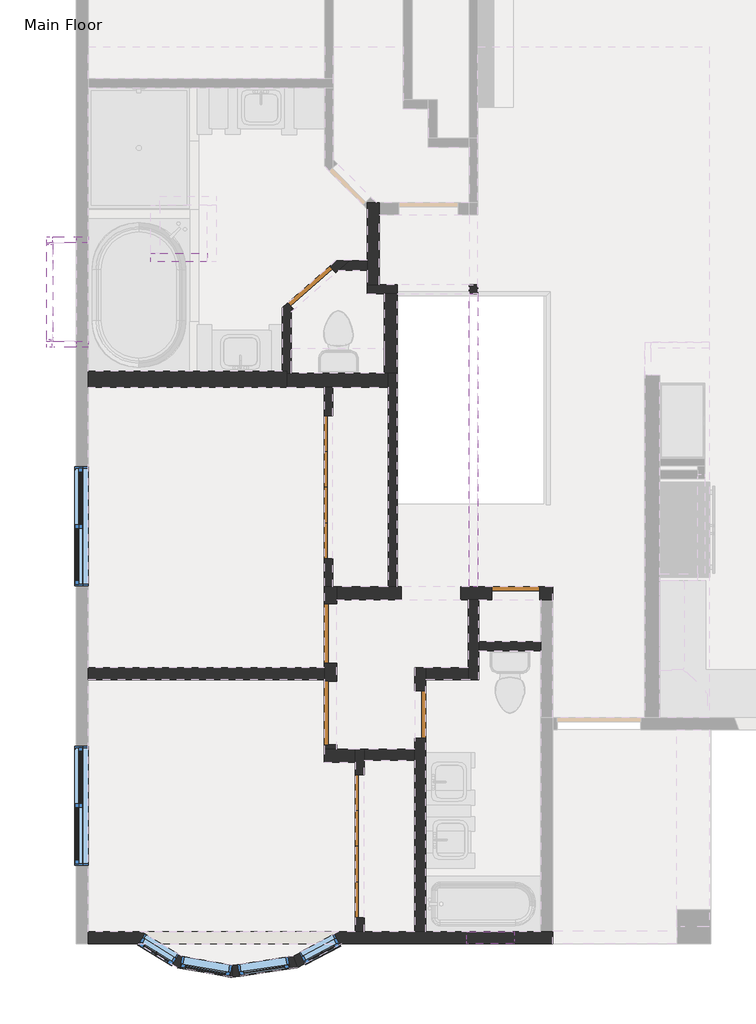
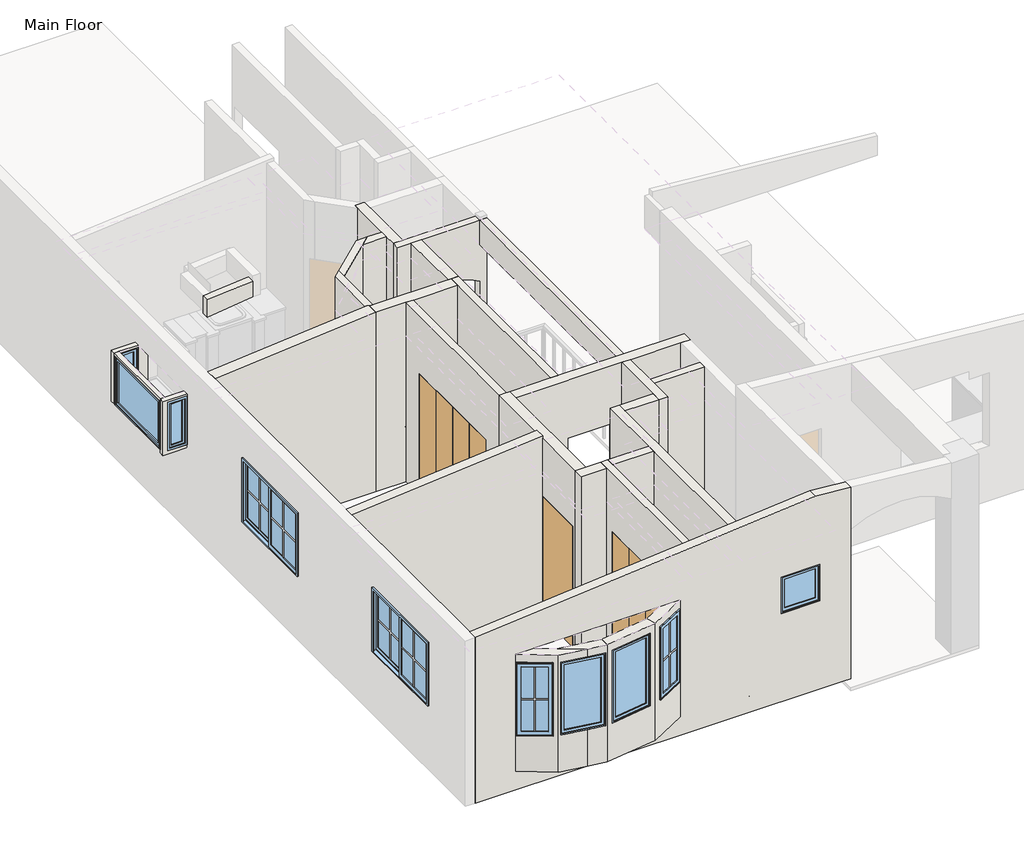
# One storey, part 1 of 5: 30 walls, 10 windows, 7 doors.
"""IFC4 building model written with IfcOpenShell, lengths in millimetres."""

from ifc_helpers import new_model, si_unit, frame, origin, origin_with_axes, place, context, project, spatial, polyline, circle_curve, outline, extrude, faceted_brep, transform, mapped, element, save
from ifc_brep_helpers import plane_surface, revolved_surface, advanced_brep
from components import door_87ea4745, door_5d97b8ff, door_faf8bfec, door_33e9856f, door_2963ea5e, door_f2f0d49f, default_1_57e22ce4, default_1_a1776558, default_1_78747222, default_1_bc1e4ced, default_1_f9d25cd8, default_1_6015c5f7

model = new_model("IFC4")

# Units and contexts
model_context = context("Model", 3, world=origin())
ifc_project = project(units=[si_unit("LENGTHUNIT", "METRE", prefix="MILLI")], contexts=[model_context])

# Site, building, storey
site = spatial("IfcSite", under=ifc_project)
building = spatial("IfcBuilding", under=site)
storey = spatial("IfcBuildingStorey", under=building, Name="Main Floor", Elevation=0.0)

# Doors
placement = place(None, origin())
door_shape = door_87ea4745(model_context)
element("IfcDoor", 1, ObjectType="Planitar - Single Door_Flush Panel : 2'-0\" x 6'-8\"", at=placement, inside=storey, context=model_context, shape_type="MappedRepresentation", body=[
    mapped(door_shape, transform((-1442.3255931, -6125.0626044, 0.0), x_axis=(0.0, 1.0, 0.0), y_axis=(-1.0, 0.0, 0.0), z_axis=(0.0, 0.0, 1.0))),
])
door_2_shape = door_5d97b8ff(model_context)
element("IfcDoor", 2, ObjectType="Planitar - Single Door_Flush Panel : 2'-0\" x 6'-8\"", at=placement, inside=storey, context=model_context, shape_type="MappedRepresentation", body=[
    mapped(door_2_shape, transform((-223.1255931, -4571.6938544, 0.0), x_axis=(1.0, 0.0, 0.0), y_axis=(0.0, 1.0, 0.0), z_axis=(0.0, 0.0, 1.0))),
])
door_3_shape = door_faf8bfec(model_context)
element("IfcDoor", 3, ObjectType="Planitar - Single Door_Flush Panel : 2'-4\" x 6'-8\"", at=placement, inside=storey, context=model_context, shape_type="MappedRepresentation", body=[
    mapped(door_3_shape, transform((-2831.7024506, -665.3234894, 0.0), x_axis=(0.7507134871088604, 0.6606279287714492, 0.0), y_axis=(-0.6606279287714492, 0.7507134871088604, 0.0), z_axis=(0.0, 0.0, 1.0))),
])
door_4_shape = door_33e9856f(model_context)
element("IfcDoor", 4, ObjectType="Planitar - Single Door_Flush Panel : 2'-6\" x 6'-8\"", at=placement, inside=storey, context=model_context, shape_type="MappedRepresentation", body=[
    mapped(door_4_shape, transform((-2591.6755931, -5086.0438544, 0.0), x_axis=(0.0, -1.0, 0.0), y_axis=(1.0, 0.0, 0.0), z_axis=(0.0, 0.0, 1.0))),
])
door_5_shape = door_2963ea5e(model_context)
element("IfcDoor", 5, ObjectType="Planitar - Single Door_Flush Panel : 2'-8\" x 6'-8\"", at=placement, inside=storey, context=model_context, shape_type="MappedRepresentation", body=[
    mapped(door_5_shape, transform((-2591.6755931, -6102.8376044, 0.0), x_axis=(0.0, 1.0, 0.0), y_axis=(-1.0, 0.0, 0.0), z_axis=(0.0, 0.0, 1.0))),
])
door_6_shape = door_f2f0d49f(model_context)
element("IfcDoor", 6, ObjectType="Planitar - Bifold Door : 6'-0\" x 6'-8\"", at=placement, inside=storey, context=model_context, shape_type="MappedRepresentation", body=[
    mapped(door_6_shape, transform((-2217.0255931, -7810.1938544, 0.0), x_axis=(0.0, 1.0, 0.0), y_axis=(-1.0, 0.0, 0.0), z_axis=(0.0, 0.0, 1.0))),
])
element("IfcDoor", 7, ObjectType="Planitar - Bifold Door : 6'-0\" x 6'-8\"", at=placement, inside=storey, context=model_context, shape_type="MappedRepresentation", body=[
    mapped(door_6_shape, transform((-2617.0755931, -3219.1438544, 0.0), x_axis=(0.0, 1.0, 0.0), y_axis=(-1.0, 0.0, 0.0), z_axis=(0.0, 0.0, 1.0))),
])

# Walls
element("IfcWall", 8, ObjectType="Planitar - Generic 3\"", at=placement, inside=storey, context=model_context, shape_type="Brep", body=[
    faceted_brep([(-6223.8755931, -12.3938544, 2273.3), (-5842.8755931, -12.3938544, 2273.3), (-5842.8755931, -12.3938544, 2260.6), (-5690.4755931, -12.3938544, 2260.6), (-5690.4755931, -12.3938544, 1422.4), (-5842.8755931, -12.3938544, 1422.4), (-5842.8755931, -12.3938544, 2235.2), (-6147.6755931, -12.3938544, 2235.2), (-6147.6755931, -12.3938544, 1422.4), (-6223.8755931, -12.3938544, 1422.4), (-5842.8755931, -88.5938544, 2273.3), (-6147.6755931, -88.5938544, 2273.3), (-6223.8755931, -88.5938544, 2273.3), (-6223.8755931, -88.5938544, 1422.4), (-6147.6755931, -88.5938544, 1422.4), (-6147.6755931, -88.5938544, 2235.2), (-5842.8755931, -88.5938544, 2235.2), (-5842.8755931, -88.5938544, 1422.4), (-5690.4755931, -88.5938544, 1422.4), (-5690.4755931, -88.5938544, 2260.6), (-5842.8755931, -88.5938544, 2260.6)], [[[0, 1, 2, 3, 4, 5, 6, 7, 8, 9]], [[10, 11, 12, 13, 14, 15, 16, 17, 18, 19, 20]], [[13, 9, 8, 14]], [[4, 18, 17, 5]], [[1, 0, 12, 11, 10]], [[0, 9, 13, 12]], [[20, 19, 3, 2]], [[4, 3, 19, 18]], [[2, 1, 10, 20]], [[7, 15, 14, 8]], [[16, 6, 5, 17]], [[6, 16, 15, 7]]]),
])
element("IfcWall", 9, ObjectType="Planitar - Generic 3\"", at=placement, inside=storey, context=model_context, shape_type="Brep", body=[
    faceted_brep([(-6223.8755931, -1352.2438544, 2273.3), (-6223.8755931, -88.5938544, 2273.3), (-6223.8755931, -88.5938544, 1422.4), (-6223.8755931, -110.8188544, 1422.4), (-6223.8755931, -110.8188544, 2235.2), (-6223.8755931, -1330.0188544, 2235.2), (-6223.8755931, -1330.0188544, 1422.4), (-6223.8755931, -1352.2438544, 1422.4), (-6147.6755931, -88.5938544, 2273.3), (-6147.6755931, -1352.2438544, 2273.3), (-6147.6755931, -1352.2438544, 2237.7945495), (-6147.6755931, -1352.2438544, 1424.9945495), (-6147.6755931, -1352.2438544, 1422.4), (-6147.6755931, -1330.0188544, 1422.4), (-6147.6755931, -1330.0188544, 2235.2), (-6147.6755931, -110.8188544, 2235.2), (-6147.6755931, -110.8188544, 1422.4), (-6147.6755931, -88.5938544, 1422.4), (-6147.6755931, -88.5938544, 1456.8035472), (-6147.6755931, -88.5938544, 2269.6035472)], [[[0, 1, 2, 3, 4, 5, 6, 7]], [[8, 9, 10, 11, 12, 13, 14, 15, 16, 17, 18, 19]], [[2, 17, 16, 3]], [[12, 7, 6, 13]], [[1, 0, 9, 8]], [[2, 1, 8, 19, 18, 17]], [[0, 7, 12, 11, 10, 9]], [[5, 14, 13, 6]], [[15, 4, 3, 16]], [[4, 15, 14, 5]]]),
])
element("IfcWall", 10, ObjectType="Planitar - Generic 3\"", at=placement, inside=storey, context=model_context, shape_type="Brep", body=[
    faceted_brep([(-6223.8755931, -1428.4438544, 1371.6), (-5690.4755931, -1428.4438544, 1371.6), (-5690.4755931, -1428.4438544, 1422.4), (-5690.4755931, -1428.4438544, 2260.6), (-5842.8755931, -1428.4438544, 2260.6), (-5842.8755931, -1428.4438544, 2273.3), (-6223.8755931, -1428.4438544, 2273.3), (-5843.0005931, -1428.4438544, 2235.2), (-5843.0005931, -1428.4438544, 1422.4), (-6147.8005931, -1428.4438544, 1422.4), (-6147.8005931, -1428.4438544, 2235.2), (-5690.4755931, -1352.2438544, 1371.6), (-6223.8755931, -1352.2438544, 1371.6), (-6223.8755931, -1352.2438544, 1422.4), (-6223.8755931, -1352.2438544, 2273.3), (-6147.6755931, -1352.2438544, 2273.3), (-5842.8755931, -1352.2438544, 2273.3), (-5842.8755931, -1352.2438544, 2260.6), (-5690.4755931, -1352.2438544, 2260.6), (-5843.0005931, -1352.2438544, 1422.4), (-5843.0005931, -1352.2438544, 2235.2), (-6147.8005931, -1352.2438544, 2235.2), (-6147.8005931, -1352.2438544, 1422.4)], [[[0, 1, 2, 3, 4, 5, 6], [7, 8, 9, 10]], [[11, 12, 13, 14, 15, 16, 17, 18], [19, 20, 21, 22]], [[1, 0, 12, 11]], [[6, 5, 16, 15, 14]], [[0, 6, 14, 13, 12]], [[4, 3, 18, 17]], [[3, 2, 1, 11, 18]], [[5, 4, 17, 16]], [[19, 8, 7, 20]], [[21, 10, 9, 22]], [[8, 19, 22, 9]], [[10, 21, 20, 7]]]),
])
element("IfcWall", 11, ObjectType="Planitar - Generic 6\"", at=placement, inside=storey, context=model_context, shape_type="Brep", body=[
    faceted_brep([(-5051.5572445, -9054.7938544, 304.8), (-4549.6415315, -9362.2171956, 304.8), (-4549.6415315, -9362.2171956, 2260.6), (-5051.5572445, -9054.7938544, 2260.6), (-5044.389161, -9059.184305, 914.4), (-5044.389161, -9059.184305, 2133.6), (-4611.1899056, -9324.5188205, 2133.6), (-4611.1899056, -9324.5188205, 914.4), (-4137.1473663, -9436.1548561, 304.8), (-4494.5096931, -9217.2704544, 304.8), (-4759.7776399, -9054.7938544, 304.8), (-4759.7776399, -9054.7938544, 914.4), (-4531.589551, -9194.5590439, 914.4), (-4531.589551, -9194.5590439, 2133.6), (-4759.7776399, -9054.7938544, 2133.6), (-4759.7776399, -9054.7938544, 2260.6), (-4494.5096931, -9217.2704544, 2260.6), (-4137.1473663, -9436.1548561, 2260.6), (-4137.1473663, -9436.1548561, 2133.6), (-4494.5096931, -9217.2704544, 2133.6), (-4494.5096931, -9217.2704544, 914.4), (-4137.1473663, -9436.1548561, 914.4), (-4522.8716734, -9367.0155682, 914.4), (-4522.8716734, -9367.0155682, 2133.6), (-5041.7000103, -9054.7938544, 2133.6), (-5041.7000103, -9054.7938544, 914.4), (-4495.9832156, -9217.0063323, 2133.6), (-4495.9832156, -9217.0063323, 914.4)], [[[0, 1, 2, 3], [4, 5, 6, 7]], [[8, 9, 10, 11, 12, 13, 14, 15, 16, 17, 18, 19, 20, 21]], [[1, 0, 10, 9, 8]], [[3, 2, 17, 16, 15]], [[2, 1, 8, 21, 22, 23, 18, 17]], [[24, 5, 4, 25]], [[25, 4, 7, 12, 11]], [[12, 7, 6, 13]], [[5, 24, 14, 13, 6]], [[26, 27, 20, 19]], [[23, 26, 19, 18]], [[27, 26, 23, 22]], [[27, 22, 21, 20]], [[0, 3, 15, 14, 24, 25, 11, 10]]]),
])
element("IfcWall", 12, ObjectType="Planitar - Generic 6\"", at=placement, inside=storey, context=model_context, shape_type="Brep", body=[
    faceted_brep([(-4137.1473663, -9436.1548561, 304.8), (-3850.0897275, -9487.6086026, 304.8), (-3850.0897275, -9487.6086026, 2260.6), (-4137.1473663, -9436.1548561, 2260.6), (-4137.1473663, -9436.1548561, 2133.6), (-3872.8316514, -9483.5322186, 2133.6), (-3872.8316514, -9483.5322186, 914.4), (-4137.1473663, -9436.1548561, 914.4), (-3847.8613931, -9333.1791544, 304.8), (-4494.5096931, -9217.2704544, 304.8), (-4494.5096931, -9217.2704544, 914.4), (-3847.8613931, -9333.1791544, 914.4), (-4494.5096931, -9217.2704544, 2260.6), (-3847.8613931, -9333.1791544, 2260.6), (-3847.8613931, -9333.1791544, 2133.6), (-4494.5096931, -9217.2704544, 2133.6), (-3848.0347252, -9345.1915227, 914.4), (-3848.0347252, -9345.1915227, 2133.6)], [[[0, 1, 2, 3, 4, 5, 6, 7]], [[8, 9, 10, 11]], [[12, 13, 14, 15]], [[1, 0, 9, 8]], [[3, 2, 13, 12]], [[3, 12, 15, 4]], [[9, 0, 7, 10]], [[2, 1, 8, 11, 16, 17, 14, 13]], [[16, 6, 5, 17]], [[17, 5, 4, 15, 14]], [[6, 16, 11, 10, 7]]]),
])
element("IfcWall", 13, ObjectType="Planitar - Generic 6\"", at=placement, inside=storey, context=model_context, shape_type="Brep", body=[
    faceted_brep([(-3850.0897275, -9487.6086026, 304.8), (-3018.1038076, -9363.1382187, 304.8), (-3018.1038076, -9363.1382187, 2260.6), (-3850.0897275, -9487.6086026, 2260.6), (-3107.1918426, -9376.4663552, 914.4), (-3760.3230779, -9474.1789411, 914.4), (-3760.3230779, -9474.1789411, 2133.6), (-3107.1918426, -9376.4663552, 2133.6), (-3066.9473931, -9216.3494544, 304.8), (-3847.8613931, -9333.1791544, 304.8), (-3847.8613931, -9333.1791544, 914.4), (-3847.8613931, -9333.1791544, 2133.6), (-3847.8613931, -9333.1791544, 2260.6), (-3066.9473931, -9216.3494544, 2260.6), (-3129.7409009, -9225.7437624, 914.4), (-3129.7409009, -9225.7437624, 2133.6), (-3782.8721362, -9323.4563483, 2133.6), (-3782.8721362, -9323.4563483, 914.4), (-3848.0347252, -9345.1915227, 2133.6), (-3848.0347252, -9345.1915227, 914.4), (-3845.9431937, -9333.5229827, 914.4), (-3845.9431937, -9333.5229827, 2133.6)], [[[0, 1, 2, 3], [4, 5, 6, 7]], [[8, 9, 10, 11, 12, 13], [14, 15, 16, 17]], [[1, 0, 9, 8]], [[3, 2, 13, 12]], [[0, 3, 12, 11, 18, 19, 10, 9]], [[2, 1, 8, 13]], [[15, 14, 4, 7]], [[16, 15, 7, 6]], [[17, 16, 6, 5]], [[14, 17, 5, 4]], [[20, 21, 11, 10]], [[21, 20, 19, 18]], [[11, 21, 18]], [[20, 10, 19]]]),
])
element("IfcWall", 14, ObjectType="Planitar - Generic 6\"", at=placement, inside=storey, context=model_context, shape_type="Brep", body=[
    faceted_brep([(-3018.1038076, -9363.1382187, 304.8), (-2445.4642739, -9054.7938544, 304.8), (-2445.4642739, -9054.7938544, 2260.6), (-3018.1038076, -9363.1382187, 2260.6), (-2920.0990543, -9310.3664284, 914.4), (-2920.0990543, -9310.3664284, 2133.6), (-2472.8197355, -9069.5237183, 2133.6), (-2472.8197355, -9069.5237183, 914.4), (-2766.9155646, -9054.7938544, 304.8), (-3066.9473931, -9216.3494544, 304.8), (-3066.9473931, -9216.3494544, 2260.6), (-2766.9155646, -9054.7938544, 2260.6), (-2766.9155646, -9054.7938544, 2133.6), (-2992.3518673, -9176.1826328, 2133.6), (-2992.3518673, -9176.1826328, 914.4), (-2766.9155646, -9054.7938544, 914.4), (-2480.7512007, -9054.7938544, 914.4), (-2480.7512007, -9054.7938544, 2133.6)], [[[0, 1, 2, 3], [4, 5, 6, 7]], [[8, 9, 10, 11, 12, 13, 14, 15]], [[1, 0, 9, 8]], [[3, 2, 11, 10]], [[0, 3, 10, 9]], [[13, 5, 4, 14]], [[14, 4, 7, 16, 15]], [[16, 7, 6, 17]], [[5, 13, 12, 17, 6]], [[2, 1, 8, 15, 16, 17, 12, 11]]]),
])
element("IfcWall", 15, ObjectType="Planitar - Generic 6\"", at=placement, inside=storey, context=model_context, shape_type="Brep", body=[
    faceted_brep([(-5690.4755931, -9054.7938544, 0.0), (100.7244069, -9054.7938544, 0.0), (253.1244069, -9054.7938544, 0.0), (253.1244069, -9054.7938544, 2496.773953), (253.1244069, -9054.7938544, 3195.7310301), (-312.0255931, -9054.7938544, 3245.1752483), (-5690.4755931, -9054.7938544, 2774.621846), (-239.0005931, -9054.7938544, 1473.2), (-848.6005931, -9054.7938544, 1473.2), (-848.6005931, -9054.7938544, 2082.8), (-239.0005931, -9054.7938544, 2082.8), (-5041.7000103, -9054.7938544, 914.4), (-5041.7000103, -9054.7938544, 2133.6), (-4759.7776399, -9054.7938544, 2133.6), (-4759.7776399, -9054.7938544, 2260.6), (-2766.9155646, -9054.7938544, 2260.6), (-2766.9155646, -9054.7938544, 2133.6), (-2480.7512007, -9054.7938544, 2133.6), (-2480.7512007, -9054.7938544, 914.4), (-2766.9155646, -9054.7938544, 914.4), (-2766.9155646, -9054.7938544, 304.8), (-4759.7776399, -9054.7938544, 304.8), (-4759.7776399, -9054.7938544, 914.4), (253.1244069, -8902.3938544, 0.0), (100.7244069, -8902.3938544, 0.0), (-1372.4755931, -8902.3938544, 0.0), (-1512.1755931, -8902.3938544, 0.0), (-2159.8755931, -8902.3938544, 0.0), (-2274.1755931, -8902.3938544, 0.0), (-5690.4755931, -8902.3938544, 0.0), (-5690.4755931, -8902.3938544, 2774.621846), (-312.0255931, -8902.3938544, 3245.1752483), (100.7244069, -8902.3938544, 3209.0643025), (253.1244069, -8902.3938544, 3195.7310301), (-239.0005931, -8902.3938544, 1473.2), (-239.0005931, -8902.3938544, 2082.8), (-848.6005931, -8902.3938544, 2082.8), (-848.6005931, -8902.3938544, 1473.2), (-2483.8869931, -8902.3938544, 2260.6), (-5008.5939931, -8902.3938544, 2260.6), (-5008.5939931, -8902.3938544, 304.8), (-2483.8869931, -8902.3938544, 304.8), (-2545.0725485, -8935.3399227, 914.4), (-2545.0725485, -8935.3399227, 2133.6), (-4964.7888064, -8929.2245284, 2133.6), (-4964.7888064, -8929.2245284, 914.4)], [[[0, 1, 2, 3, 4, 5, 6], [7, 8, 9, 10], [11, 12, 13, 14, 15, 16, 17, 18, 19, 20, 21, 22]], [[23, 24, 25, 26, 27, 28, 29, 30, 31, 32, 33], [34, 35, 36, 37], [38, 39, 40, 41]], [[6, 5, 31, 30]], [[5, 4, 33, 32, 31]], [[35, 34, 7, 10]], [[36, 35, 10, 9]], [[37, 36, 9, 8]], [[34, 37, 8, 7]], [[4, 3, 2, 23, 33]], [[0, 6, 30, 29]], [[18, 42, 19]], [[42, 18, 17, 43]], [[43, 17, 16]], [[44, 12, 11, 45]], [[45, 11, 22]], [[12, 44, 13]], [[2, 1, 0, 29, 28, 27, 26, 25, 24, 23]], [[15, 14, 39, 38]], [[21, 20, 41, 40]], [[21, 40, 39, 14, 13, 44, 45, 22]], [[15, 38, 41, 20, 19, 42, 43, 16]]]),
])
element("IfcWall", 16, ObjectType="Planitar - Generic 5 1/2\"", at=placement, inside=storey, context=model_context, shape_type="Brep", body=[
    faceted_brep([(-1372.4755931, -5820.2626044, 2032.0), (-1372.4755931, -5820.2626044, 0.0), (-1372.4755931, -5676.5938544, 0.0), (-1372.4755931, -5524.1938544, 0.0), (-1372.4755931, -5524.1938544, 2997.2), (-1372.4755931, -5676.5938544, 2997.2), (-1372.4755931, -8902.3938544, 2997.2), (-1372.4755931, -8902.3938544, 0.0), (-1372.4755931, -6429.8626044, 0.0), (-1372.4755931, -6429.8626044, 2032.0), (-1512.1755931, -5524.1938544, 0.0), (-1512.1755931, -5820.2626044, 0.0), (-1512.1755931, -5820.2626044, 2032.0), (-1512.1755931, -6429.8626044, 2032.0), (-1512.1755931, -6429.8626044, 0.0), (-1512.1755931, -6571.9438544, 0.0), (-1512.1755931, -6711.6438544, 0.0), (-1512.1755931, -8902.3938544, 0.0), (-1512.1755931, -8902.3938544, 2997.2), (-1512.1755931, -6711.6438544, 2997.2), (-1512.1755931, -6571.9438544, 2997.2), (-1512.1755931, -5524.1938544, 2997.2)], [[[0, 1, 2, 3, 4, 5, 6, 7, 8, 9]], [[10, 11, 12, 13, 14, 15, 16, 17, 18, 19, 20, 21]], [[8, 7, 17, 16, 15, 14]], [[3, 2, 1, 11, 10]], [[6, 5, 4, 21, 20, 19, 18]], [[7, 6, 18, 17]], [[4, 3, 10, 21]], [[12, 11, 1, 0]], [[13, 12, 0, 9]], [[14, 13, 9, 8]]]),
])
element("IfcWall", 17, ObjectType="Planitar - Generic 5 1/2\"", at=placement, inside=storey, context=model_context, shape_type="SweptSolid", body=[
    extrude(outline(polyline([(-1512.1755931, -6711.6438544), (-2159.8755931, -6711.6438544), (-2159.8755931, -6571.9438544), (-1512.1755931, -6571.9438544), (-1512.1755931, -6711.6438544)])), origin_with_axes(), (0.0, 0.0, 1.0), 2997.2),
])
element("IfcWall", 18, ObjectType="Planitar - Generic 5 1/2\"", at=placement, inside=storey, context=model_context, shape_type="Brep", body=[
    faceted_brep([(-693.0255931, -5676.5938544, 0.0), (-693.0255931, -5308.2938544, 0.0), (-693.0255931, -5193.9938544, 0.0), (-693.0255931, -4654.2438544, 0.0), (-693.0255931, -4654.2438544, 2997.2), (-693.0255931, -5193.9938544, 2997.2), (-693.0255931, -5308.2938544, 2997.2), (-693.0255931, -5676.5938544, 2997.2), (-832.7255931, -5676.5938544, 0.0), (-832.7255931, -5676.5938544, 2997.2), (-832.7255931, -5524.1938544, 2997.2), (-832.7255931, -4654.2438544, 2997.2), (-832.7255931, -4654.2438544, 0.0), (-832.7255931, -5524.1938544, 0.0)], [[[0, 1, 2, 3, 4, 5, 6, 7]], [[8, 9, 10, 11, 12, 13]], [[3, 2, 1, 0, 8, 13, 12]], [[7, 6, 5, 4, 11, 10, 9]], [[4, 3, 12, 11]], [[0, 7, 9, 8]]]),
])
element("IfcWall", 19, ObjectType="Planitar - Generic 6\"", at=placement, inside=storey, context=model_context, shape_type="SweptSolid", body=[
    extrude(outline(polyline([(0.0, -5690.4755931), (0.0, -2674.2255931), (3038.5095273, -2674.2255931), (2774.621846, -5690.4755931), (0.0, -5690.4755931)])), frame((0.0, -5676.5938544, 0.0), z_axis=(0.0, 1.0, 0.0), x_axis=(0.0, 0.0, 1.0)), (0.0, 0.0, 1.0), 152.4),
])
element("IfcWall", 20, ObjectType="Planitar - Generic 6 1/2\"", at=placement, inside=storey, context=model_context, shape_type="Brep", body=[
    faceted_brep([(-2509.1255931, -5696.4376044, 0.0), (-2509.1255931, -5467.0438544, 0.0), (-2509.1255931, -5467.0438544, 2032.0), (-2509.1255931, -4705.0438544, 2032.0), (-2509.1255931, -4705.0438544, 0.0), (-2509.1255931, -4654.2438544, 0.0), (-2509.1255931, -4489.1438544, 0.0), (-2509.1255931, -4489.1438544, 2997.2), (-2509.1255931, -4654.2438544, 2997.2), (-2509.1255931, -6571.9438544, 2997.2), (-2509.1255931, -6571.9438544, 0.0), (-2509.1255931, -6509.2376044, 0.0), (-2509.1255931, -6509.2376044, 2032.0), (-2509.1255931, -5696.4376044, 2032.0), (-2674.2255931, -5467.0438544, 2032.0), (-2674.2255931, -5467.0438544, 0.0), (-2674.2255931, -5524.1938544, 0.0), (-2674.2255931, -5676.5938544, 0.0), (-2674.2255931, -5696.4376044, 0.0), (-2674.2255931, -5696.4376044, 2032.0), (-2674.2255931, -6509.2376044, 2032.0), (-2674.2255931, -6509.2376044, 0.0), (-2674.2255931, -6571.9438544, 0.0), (-2674.2255931, -6571.9438544, 2997.2), (-2674.2255931, -4489.1438544, 2997.2), (-2674.2255931, -4489.1438544, 0.0), (-2674.2255931, -4705.0438544, 0.0), (-2674.2255931, -4705.0438544, 2032.0), (-2559.9255931, -4489.1438544, 0.0), (-2559.9255931, -4489.1438544, 2997.2)], [[[0, 1, 2, 3, 4, 5, 6, 7, 8, 9, 10, 11, 12, 13]], [[14, 15, 16, 17, 18, 19, 20, 21, 22, 23, 24, 25, 26, 27]], [[11, 10, 22, 21]], [[26, 25, 28, 6, 5, 4]], [[18, 17, 16, 15, 1, 0]], [[9, 8, 7, 29, 24, 23]], [[7, 6, 28, 25, 24, 29]], [[10, 9, 23, 22]], [[19, 18, 0, 13]], [[20, 19, 13, 12]], [[21, 20, 12, 11]], [[2, 1, 15, 14]], [[3, 2, 14, 27]], [[4, 3, 27, 26]]]),
])
element("IfcWall", 21, ObjectType="Planitar - Generic 6 1/2\"", at=placement, inside=storey, context=model_context, shape_type="Brep", body=[
    faceted_brep([(-2509.1255931, -4654.2438544, 0.0), (-1686.8005931, -4654.2438544, 0.0), (-1686.8005931, -4654.2438544, 2032.0), (-924.8005931, -4654.2438544, 2032.0), (-924.8005931, -4654.2438544, 0.0), (-832.7255931, -4654.2438544, 0.0), (-693.0255931, -4654.2438544, 0.0), (-527.9255931, -4654.2438544, 0.0), (-527.9255931, -4654.2438544, 2032.0), (81.6744069, -4654.2438544, 2032.0), (81.6744069, -4654.2438544, 0.0), (100.7244069, -4654.2438544, 0.0), (253.1244069, -4654.2438544, 0.0), (253.1244069, -4654.2438544, 2997.2), (100.7244069, -4654.2438544, 2997.2), (-693.0255931, -4654.2438544, 2997.2), (-832.7255931, -4654.2438544, 2997.2), (-2509.1255931, -4654.2438544, 2997.2), (-1686.8005931, -4489.1438544, 2032.0), (-1686.8005931, -4489.1438544, 0.0), (-1740.7755931, -4489.1438544, 0.0), (-1855.0755931, -4489.1438544, 0.0), (-2509.1255931, -4489.1438544, 0.0), (-2509.1255931, -4489.1438544, 2997.2), (-1855.0755931, -4489.1438544, 2997.2), (-1740.7755931, -4489.1438544, 2997.2), (-820.0255931, -4489.1438544, 2997.2), (-705.7255931, -4489.1438544, 2997.2), (253.1244069, -4489.1438544, 2997.2), (253.1244069, -4489.1438544, 0.0), (81.6744069, -4489.1438544, 0.0), (81.6744069, -4489.1438544, 2032.0), (-527.9255931, -4489.1438544, 2032.0), (-527.9255931, -4489.1438544, 0.0), (-924.8005931, -4489.1438544, 0.0), (-924.8005931, -4489.1438544, 2032.0)], [[[0, 1, 2, 3, 4, 5, 6, 7, 8, 9, 10, 11, 12, 13, 14, 15, 16, 17]], [[18, 19, 20, 21, 22, 23, 24, 25, 26, 27, 28, 29, 30, 31, 32, 33, 34, 35]], [[12, 11, 10, 30, 29]], [[34, 33, 7, 6, 5, 4]], [[22, 21, 20, 19, 1, 0]], [[17, 16, 15, 14, 13, 28, 27, 26, 25, 24, 23]], [[0, 17, 23, 22]], [[13, 12, 29, 28]], [[31, 30, 10, 9]], [[32, 31, 9, 8]], [[33, 32, 8, 7]], [[4, 3, 35, 34]], [[2, 1, 19, 18]], [[3, 2, 18, 35]]]),
])
element("IfcWall", 22, ObjectType="Planitar - Generic 6\"", at=placement, inside=storey, context=model_context, shape_type="SweptSolid", body=[
    extrude(outline(polyline([(-832.7255931, -5676.5938544), (-1372.4755931, -5676.5938544), (-1372.4755931, -5524.1938544), (-832.7255931, -5524.1938544), (-832.7255931, -5676.5938544)])), origin_with_axes(), (0.0, 0.0, 1.0), 2997.2),
])
element("IfcWall", 23, ObjectType="Planitar - Generic 4 1/2\"", at=placement, inside=storey, context=model_context, shape_type="SweptSolid", body=[
    extrude(outline(polyline([(100.7244069, -5308.2938544), (-693.0255931, -5308.2938544), (-693.0255931, -5193.9938544), (100.7244069, -5193.9938544), (100.7244069, -5308.2938544)])), origin_with_axes(), (0.0, 0.0, 1.0), 2997.2),
])
element("IfcWall", 24, ObjectType="Planitar - Generic 4 1/2\"", at=placement, inside=storey, context=model_context, shape_type="Brep", body=[
    faceted_brep([(-2274.1755931, -8902.3938544, 2997.2), (-2274.1755931, -6737.0438544, 2997.2), (-2274.1755931, -6571.9438544, 2997.2), (-2274.1755931, -6571.9438544, 0.0), (-2274.1755931, -6737.0438544, 0.0), (-2274.1755931, -6895.7938544, 0.0), (-2274.1755931, -6895.7938544, 2032.0), (-2274.1755931, -8724.5938544, 2032.0), (-2274.1755931, -8724.5938544, 0.0), (-2274.1755931, -8902.3938544, 0.0), (-2159.8755931, -6571.9438544, 2997.2), (-2159.8755931, -6711.6438544, 2997.2), (-2159.8755931, -8902.3938544, 2997.2), (-2159.8755931, -8902.3938544, 0.0), (-2159.8755931, -8724.5938544, 0.0), (-2159.8755931, -8724.5938544, 2032.0), (-2159.8755931, -6895.7938544, 2032.0), (-2159.8755931, -6895.7938544, 0.0), (-2159.8755931, -6711.6438544, 0.0), (-2159.8755931, -6571.9438544, 0.0)], [[[0, 1, 2, 3, 4, 5, 6, 7, 8, 9]], [[10, 11, 12, 13, 14, 15, 16, 17, 18, 19]], [[13, 9, 8, 14]], [[3, 19, 18, 17, 5, 4]], [[2, 1, 0, 12, 11, 10]], [[0, 9, 13, 12]], [[3, 2, 10, 19]], [[16, 6, 5, 17]], [[6, 16, 15, 7]], [[7, 15, 14, 8]]]),
])
element("IfcWall", 25, ObjectType="Planitar - Generic 6 1/2\"", at=placement, inside=storey, context=model_context, shape_type="Brep", body=[
    faceted_brep([(-2674.2255931, -6737.0438544, 0.0), (-2274.1755931, -6737.0438544, 0.0), (-2274.1755931, -6737.0438544, 2997.2), (-2674.2255931, -6737.0438544, 2997.2), (-2674.2255931, -6571.9438544, 0.0), (-2674.2255931, -6571.9438544, 2997.2), (-2509.1255931, -6571.9438544, 2997.2), (-2274.1755931, -6571.9438544, 2997.2), (-2274.1755931, -6571.9438544, 0.0), (-2509.1255931, -6571.9438544, 0.0)], [[[0, 1, 2, 3]], [[4, 5, 6, 7, 8, 9]], [[1, 0, 4, 9, 8]], [[3, 2, 7, 6, 5]], [[0, 3, 5, 4]], [[2, 1, 8, 7]]]),
])
element("IfcWall", 26, ObjectType="Planitar - Generic 4 1/2\"", at=placement, inside=storey, context=model_context, shape_type="SweptSolid", body=[
    extrude(outline(polyline([(-4489.1438544, 2997.2), (-1936.4438544, 2997.2), (-1936.4438544, 0.0), (-2304.7438544, 0.0), (-2304.7438544, 2032.0), (-4133.5438544, 2032.0), (-4133.5438544, 0.0), (-4489.1438544, 0.0), (-4489.1438544, 2997.2)])), frame((-2674.2255931, 0.0, 0.0), z_axis=(1.0, 0.0, 0.0), x_axis=(0.0, 1.0, 0.0)), (0.0, 0.0, 1.0), 114.3),
])
element("IfcWall", 27, ObjectType="Planitar - Generic 4 1/2\"", at=placement, inside=storey, context=model_context, shape_type="Brep", body=[
    faceted_brep([(-1740.7755931, -4489.1438544, 0.0), (-1740.7755931, -1758.6438544, 0.0), (-1740.7755931, -1758.6438544, 2997.2), (-1740.7755931, -4489.1438544, 2997.2), (-1855.0755931, -4489.1438544, 0.0), (-1855.0755931, -4489.1438544, 2997.2), (-1855.0755931, -1936.4438544, 2997.2), (-1855.0755931, -1758.6438544, 2997.2), (-1855.0755931, -1758.6438544, 0.0), (-1855.0755931, -1936.4438544, 0.0)], [[[0, 1, 2, 3]], [[4, 5, 6, 7, 8, 9]], [[1, 0, 4, 9, 8]], [[3, 2, 7, 6, 5]], [[0, 3, 5, 4]], [[2, 1, 8, 7]]]),
])
element("IfcWall", 28, ObjectType="Planitar - Generic 7\"", at=placement, inside=storey, context=model_context, shape_type="Brep", body=[
    faceted_brep([(-3150.4755931, -1936.4438544, 0.0), (-2674.2255931, -1936.4438544, 0.0), (-2559.9255931, -1936.4438544, 0.0), (-1855.0755931, -1936.4438544, 0.0), (-1855.0755931, -1936.4438544, 2997.2), (-2559.9255931, -1936.4438544, 2997.2), (-2674.2255931, -1936.4438544, 2997.2), (-3150.4755931, -1936.4438544, 2997.2), (-3150.4755931, -1936.4438544, 2996.8430513), (-3150.4755931, -1758.6438544, 0.0), (-3150.4755931, -1758.6438544, 2997.2), (-3093.3255931, -1758.6438544, 2997.2), (-1905.8755931, -1758.6438544, 2997.2), (-1855.0755931, -1758.6438544, 2997.2), (-1855.0755931, -1758.6438544, 0.0), (-1905.8755931, -1758.6438544, 0.0), (-3093.3255931, -1758.6438544, 0.0)], [[[0, 1, 2, 3, 4, 5, 6, 7, 8]], [[9, 10, 11, 12, 13, 14, 15, 16]], [[3, 2, 1, 0, 9, 16, 15, 14]], [[7, 6, 5, 4, 13, 12, 11, 10]], [[0, 8, 7, 10, 9]], [[4, 3, 14, 13]]]),
])
element("IfcWall", 29, ObjectType="Planitar - Generic 6 1/2\"", at=placement, inside=storey, context=model_context, shape_type="Brep", body=[
    faceted_brep([(-1740.7755931, -1758.6438544, 0.0), (-1740.7755931, -742.6438544, 0.0), (-1740.7755931, -742.6438544, 2997.2), (-1740.7755931, -1758.6438544, 2997.2), (-1905.8755931, -1758.6438544, 0.0), (-1905.8755931, -1758.6438544, 2997.2), (-1905.8755931, -742.6438544, 2997.2), (-1905.8755931, -742.6438544, 0.0), (-1855.0755931, -1758.6438544, 0.0), (-1855.0755931, -1758.6438544, 2997.2)], [[[0, 1, 2, 3]], [[4, 5, 6, 7]], [[1, 0, 8, 4, 7]], [[3, 2, 6, 5, 9]], [[0, 3, 9, 5, 4, 8]], [[2, 1, 7, 6]]]),
])
element("IfcWall", 30, ObjectType="Planitar - Generic 8\"", at=placement, inside=storey, context=model_context, shape_type="Brep", body=[
    faceted_brep([(-5690.4755931, -1936.4438544, 0.0), (-3150.4755931, -1936.4438544, 0.0), (-3150.4755931, -1936.4438544, 2996.8430513), (-5690.4755931, -1936.4438544, 2774.621846), (-5690.4755931, -1733.2438544, 0.0), (-5690.4755931, -1733.2438544, 2774.621846), (-3150.4755931, -1733.2438544, 2996.8430513), (-3150.4755931, -1733.2438544, 0.0), (-3207.6255931, -1733.2438544, 0.0), (-4279.9755931, -1733.2438544, 0.0), (-4394.2755931, -1733.2438544, 0.0), (-3150.4755931, -1758.6438544, 0.0)], [[[0, 1, 2, 3]], [[4, 5, 6, 7, 8, 9, 10]], [[1, 0, 4, 10, 9, 8, 7, 11]], [[2, 1, 11, 7, 6]], [[0, 3, 5, 4]], [[3, 2, 6, 5]]]),
])
element("IfcWall", 31, ObjectType="Planitar - Generic 4 1/2\"", at=placement, inside=storey, context=model_context, shape_type="Brep", body=[
    faceted_brep([(-3093.3255931, -819.4242972, 2997.2), (-3093.3255931, -971.6794544, 2997.2), (-3093.3255931, -1758.6438544, 2997.2), (-3093.3255931, -1758.6438544, 0.0), (-3093.3255931, -971.6794544, 0.0), (-3093.3255931, -906.3002503, 0.0), (-3093.3255931, -906.3002503, 2032.0), (-3093.3255931, -819.4242972, 2032.0), (-3207.6255931, -920.0083063, 0.0), (-3207.6255931, -1733.2438544, 0.0), (-3207.6255931, -1733.2438544, 2997.2), (-3207.6255931, -920.0083063, 2997.2), (-3136.4110528, -857.3395051, 0.0), (-3150.4755931, -1758.6438544, 0.0), (-3150.4755931, -1733.2438544, 0.0), (-3150.4755931, -1733.2438544, 2997.2), (-3150.4755931, -1758.6438544, 2997.2), (-3150.4755931, -1733.2438544, 2996.8430513), (-3136.4110528, -857.3395051, 2032.0)], [[[0, 1, 2, 3, 4, 5, 6, 7]], [[8, 9, 10, 11]], [[9, 8, 12, 5, 4, 3, 13, 14]], [[2, 1, 0, 11, 10, 15, 16]], [[3, 2, 16, 13]], [[16, 15, 17, 14, 13]], [[10, 9, 14, 17, 15]], [[8, 11, 0, 7, 18, 12]], [[6, 18, 7]], [[18, 6, 5, 12]]]),
])
element("IfcWall", 32, ObjectType="Planitar - Generic 4 1/2\"", at=placement, inside=storey, context=model_context, shape_type="Brep", body=[
    faceted_brep([(-2349.5920244, -317.1938544, 2997.2), (-2493.9101931, -444.1938544, 2997.2), (-3093.3255931, -971.6794544, 2997.2), (-3093.3255931, -971.6794544, 0.0), (-3060.9012805, -943.1460567, 0.0), (-3060.9012805, -943.1460567, 2032.0), (-2526.9938485, -473.3074738, 2032.0), (-2526.9938485, -473.3074738, 0.0), (-2493.9101931, -444.1938544, 0.0), (-2349.5920244, -317.1938544, 0.0), (-3093.3255931, -819.4242972, 2997.2), (-2522.6092328, -317.1938544, 2997.2), (-2522.6092328, -317.1938544, 0.0), (-2602.5036208, -387.5009222, 0.0), (-2602.5036208, -387.5009222, 2032.0), (-3093.3255931, -819.4242972, 2032.0), (-3093.3255931, -906.3002503, 0.0), (-3093.3255931, -906.3002503, 2032.0)], [[[0, 1, 2, 3, 4, 5, 6, 7, 8, 9]], [[10, 11, 12, 13, 14, 15]], [[12, 9, 8, 7, 13]], [[4, 3, 16]], [[2, 1, 0, 11, 10]], [[3, 2, 10, 15, 17, 16]], [[0, 9, 12, 11]], [[6, 14, 13, 7]], [[14, 6, 5, 17, 15]], [[17, 5, 4, 16]]]),
])
element("IfcWall", 33, ObjectType="Planitar - Generic 5\"", at=placement, inside=storey, context=model_context, shape_type="SweptSolid", body=[
    extrude(outline(polyline([(-2121.7755931, -444.1938544), (-2493.9101931, -444.1938544), (-2349.5920244, -317.1938544), (-2121.7755931, -317.1938544), (-2121.7755931, -444.1938544)])), origin_with_axes(), (0.0, 0.0, 1.0), 2997.2),
])
element("IfcWall", 34, ObjectType="Planitar - Generic 6\"", at=placement, inside=storey, context=model_context, shape_type="Brep", body=[
    faceted_brep([(-1969.3755931, -628.3438544, 0.0), (-1969.3755931, 267.0061456, 0.0), (-1969.3755931, 419.4061456, 0.0), (-1969.3755931, 419.4061456, 2997.2), (-1969.3755931, 267.0061456, 2997.2), (-1969.3755931, -628.3438544, 2997.2), (-2121.7755931, 419.4061456, 0.0), (-2121.7755931, 341.2141456, 0.0), (-2121.7755931, -317.1938544, 0.0), (-2121.7755931, -444.1938544, 0.0), (-2121.7755931, -628.3438544, 0.0), (-2121.7755931, -628.3438544, 2997.2), (-2121.7755931, -444.1938544, 2997.2), (-2121.7755931, -317.1938544, 2997.2), (-2121.7755931, 341.2141456, 2997.2), (-2121.7755931, 419.4061456, 2997.2), (-2002.4019585, 419.4061456, 0.0), (-2002.4019585, 419.4061456, 2997.2)], [[[0, 1, 2, 3, 4, 5]], [[6, 7, 8, 9, 10, 11, 12, 13, 14, 15]], [[2, 1, 0, 10, 9, 8, 7, 6, 16]], [[5, 4, 3, 17, 15, 14, 13, 12, 11]], [[3, 2, 16, 6, 15, 17]], [[0, 5, 11, 10]]]),
])
element("IfcWall", 35, ObjectType="Planitar - Generic 4 1/2\"", at=placement, inside=storey, context=model_context, shape_type="AdvancedBrep", body=[
    advanced_brep(
    [(-2121.7755931, -742.6438544, 0.0), (-1905.8755931, -742.6438544, 0.0), (-1740.7755931, -742.6438544, 0.0), (-1740.0282964, -742.6438544, 0.0), (-1740.0282964, -742.6438544, 1981.2), (-820.0255931, -742.6438544, 1981.2), (-820.0255931, -742.6438544, 0.0), (-705.7255931, -742.6438544, 0.0), (-705.7255931, -742.6438544, 2590.8), (-705.7255931, -742.6438544, 2997.2), (-820.0255931, -742.6438544, 2997.2), (-1740.7755931, -742.6438544, 2997.2), (-1905.8755931, -742.6438544, 2997.2), (-2121.7755931, -742.6438544, 2997.2), (-2121.7755931, -628.3438544, 0.0), (-2121.7755931, -628.3438544, 2997.2), (-1969.3755931, -628.3438544, 2997.2), (-820.0255931, -628.3438544, 2997.2), (-705.7255931, -628.3438544, 2997.2), (-705.7255931, -628.3438544, 0.0), (-820.0255931, -628.3438544, 0.0), (-820.0255931, -628.3438544, 1981.2), (-1740.0282964, -628.3438544, 1981.2), (-1740.0282964, -628.3438544, 0.0), (-1969.3755931, -628.3438544, 0.0)],
    [
        (0, 1),
        (1, 2),
        (2, 3),
        (3, 4),
        (4, 5, circle_curve(frame((-1280.0269448, -742.6438544, 1259.7816408), z_axis=(0.0, 1.0, 0.0), x_axis=(-1.0, 0.0, 0.0)), 855.596688)),
        (5, 6),
        (6, 7),
        (7, 8),
        (8, 9),
        (9, 10),
        (10, 11),
        (11, 12),
        (12, 13),
        (13, 0),
        (14, 15),
        (15, 16),
        (16, 17),
        (17, 18),
        (18, 19),
        (19, 20),
        (20, 21),
        (21, 22, circle_curve(frame((-1280.0269448, -628.3438544, 1259.7816408), z_axis=(0.0, -1.0, 0.0), x_axis=(-1.0, 0.0, 0.0)), 855.596688)),
        (22, 23),
        (23, 24),
        (24, 14),
        (13, 15),
        (14, 0),
        (23, 3),
        (9, 18),
        (22, 4),
        (5, 21),
        (20, 6),
        (19, 7),
    ],
    [
        plane_surface(frame((-2121.7755931, -742.6438544, 0.0), z_axis=(0.0, -1.0, 0.0), x_axis=(1.0, 0.0, 0.0))),
        plane_surface(frame((-2121.7755931, -628.3438544, 0.0), z_axis=(0.0, 1.0, 0.0), x_axis=(-1.0, 0.0, 0.0))),
        plane_surface(frame((-2121.7755931, -628.3438544, 0.0), z_axis=(-1.0, 0.0, 0.0), x_axis=(0.0, -1.0, 0.0))),
        plane_surface(frame((-2045.5755931, -742.6438544, 0.0), z_axis=(0.0, 0.0, -1.0), x_axis=(0.0, 1.0, 0.0))),
        plane_surface(frame((-762.8755931, -742.6438544, 2997.2), z_axis=(0.0, 0.0, 1.0), x_axis=(0.0, 1.0, 0.0))),
        plane_surface(frame((-1740.0282964, -742.6438544, 0.0), z_axis=(1.0, 0.0, 0.0), x_axis=(0.0, 1.0, 0.0))),
        plane_surface(frame((-820.0255931, -742.6438544, 1981.2), z_axis=(-1.0, 0.0, 0.0), x_axis=(0.0, 1.0, 0.0))),
        plane_surface(frame((-820.0255931, -742.6438544, 0.0), z_axis=(0.0, 0.0, -1.0), x_axis=(0.0, 1.0, 0.0))),
        revolved_surface(polyline([(-2135.6236328, -628.3438544, 1259.7816408), (-2135.6236328, -742.6438544, 1259.7816408)]), (-1280.0269448, -628.3438544, 1259.7816408), (0.0, 1.0, 0.0)),
        plane_surface(frame((-705.7255931, -4489.1438544, 2590.8), z_axis=(1.0, 0.0, 0.0), x_axis=(0.0, 1.0, 0.0))),
    ],
    [
        (0, [[1, 2, 3, 4, 5, 6, 7, 8, 9, 10, 11, 12, 13, 14]]),
        (1, [[15, 16, 17, 18, 19, 20, 21, 22, 23, 24, 25]]),
        (2, [[-14, 26, -15, 27]]),
        (3, [[-3, -2, -1, -27, -25, -24, 28]]),
        (4, [[-13, -12, -11, -10, 29, -18, -17, -16, -26]]),
        (5, [[-4, -28, -23, 30]]),
        (6, [[-6, 31, -21, 32]]),
        (7, [[-7, -32, -20, 33]]),
        (8, [[-5, -30, -22, -31]]),
        (9, [[-9, -8, -33, -19, -29]]),
    ],
),
])
element("IfcWall", 36, ObjectType="Planitar - Generic 4 1/2\"", at=placement, inside=storey, context=model_context, shape_type="SweptSolid", body=[
    extrude(outline(polyline([(-705.7255931, -742.6438544), (-705.7255931, -4489.1438544), (-820.0255931, -4489.1438544), (-820.0255931, -742.6438544), (-705.7255931, -742.6438544)])), frame((0.0, 0.0, 2590.8), z_axis=(0.0, 0.0, 1.0), x_axis=(1.0, 0.0, 0.0)), (0.0, 0.0, 1.0), 406.4),
])
element("IfcWall", 37, ObjectType="Planitar - Generic 4 1/2\"", at=placement, inside=storey, context=model_context, shape_type="Brep", body=[
    faceted_brep([(-4170.4265258, -221.85144, 2645.9431817), (-4890.3755931, -221.85144, 2553.707714), (-4890.3755931, -221.85144, 2590.8), (-4890.3755931, -221.85144, 2844.6215257), (-4777.7068138, -221.85144, 2854.4787666), (-4170.4265258, -221.85144, 2907.6089074), (-4170.4265258, -336.15144, 2645.9431817), (-4170.4265258, -336.15144, 2646.449351), (-4170.4265258, -336.15144, 2907.6089074), (-4890.3755931, -336.15144, 2844.6215257), (-4890.3755931, -336.15144, 2553.707714)], [[[0, 1, 2, 3, 4, 5]], [[6, 7, 8, 9, 10]], [[0, 5, 8, 7, 6]], [[3, 2, 1, 10, 9]], [[5, 4, 3, 9, 8]], [[1, 0, 6, 10]]]),
])

# Windows
default_1_shape = default_1_57e22ce4(model_context)
element("IfcWindow", 38, ObjectType="Planitar-Fixed : Default 1", at=placement, inside=storey, context=model_context, shape_type="MappedRepresentation", body=[
    mapped(default_1_shape, transform((-6172.7755931, -720.4188544, 508.0), x_axis=(0.0, 1.0, 0.0), y_axis=(-1.0, 0.0, 0.0), z_axis=(0.0, 0.0, 1.0))),
])
default_1_2_shape = default_1_a1776558(model_context)
element("IfcWindow", 39, ObjectType="Planitar-Fixed : Default 1", at=placement, inside=storey, context=model_context, shape_type="MappedRepresentation", body=[
    mapped(default_1_2_shape, transform((-5995.4005931, -1403.3438544, 508.0), x_axis=(-1.0, 0.0, 0.0), y_axis=(0.0, -1.0, 0.0), z_axis=(0.0, 0.0, 1.0))),
])
element("IfcWindow", 40, ObjectType="Planitar-Fixed : Default 1", at=placement, inside=storey, context=model_context, shape_type="MappedRepresentation", body=[
    mapped(default_1_2_shape, transform((-5995.2755931, -37.4938544, 508.0), x_axis=(1.0, 0.0, 0.0), y_axis=(0.0, 1.0, 0.0), z_axis=(0.0, 0.0, 1.0))),
])
default_1_3_shape = default_1_78747222(model_context)
element("IfcWindow", 41, ObjectType="Planitar-Sliding-Double : Default 1", at=placement, inside=storey, context=model_context, shape_type="MappedRepresentation", body=[
    mapped(default_1_3_shape, transform((-5770.4855931, -7289.4938544, 152.4), x_axis=(0.0, 1.0, 0.0), y_axis=(-1.0, 0.0, 0.0), z_axis=(0.0, 0.0, 1.0))),
])
element("IfcWindow", 42, ObjectType="Planitar-Sliding-Double : Default 1", at=placement, inside=storey, context=model_context, shape_type="MappedRepresentation", body=[
    mapped(default_1_3_shape, transform((-5770.4855931, -3717.6188544, 152.4), x_axis=(0.0, 1.0, 0.0), y_axis=(-1.0, 0.0, 0.0), z_axis=(0.0, 0.0, 1.0))),
])
default_1_4_shape = default_1_bc1e4ced(model_context)
element("IfcWindow", 43, ObjectType="Planitar-Fixed : Default 1", at=placement, inside=storey, context=model_context, shape_type="MappedRepresentation", body=[
    mapped(default_1_4_shape, transform((-543.8005931, -8965.5938544, 558.8), x_axis=(-1.0, 0.0, 0.0), y_axis=(0.0, -1.0, 0.0), z_axis=(0.0, 0.0, 1.0))),
])
default_1_5_shape = default_1_f9d25cd8(model_context)
element("IfcWindow", 44, ObjectType="Planitar-Fixed : Default 1", at=placement, inside=storey, context=model_context, shape_type="MappedRepresentation", body=[
    mapped(default_1_5_shape, transform((-4182.1137987, -9337.473212, 0.0), x_axis=(-0.9843125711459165, 0.17643345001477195, 0.0), y_axis=(-0.17643345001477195, -0.9843125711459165, 0.0), z_axis=(0.0, 0.0, 1.0))),
])
element("IfcWindow", 45, ObjectType="Planitar-Fixed : Default 1", at=placement, inside=storey, context=model_context, shape_type="MappedRepresentation", body=[
    mapped(default_1_5_shape, transform((-3446.9554655, -9337.1044377, 0.0), x_axis=(-0.9889933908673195, -0.14795969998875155, 0.0), y_axis=(0.14795969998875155, -0.9889933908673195, 0.0), z_axis=(0.0, 0.0, 1.0))),
])
default_1_6_shape = default_1_6015c5f7(model_context)
element("IfcWindow", 46, ObjectType="Planitar-Casement-Single_Left : Default 1", at=placement, inside=storey, context=model_context, shape_type="MappedRepresentation", body=[
    mapped(default_1_6_shape, transform((-4787.989356, -9126.8716744, 0.0), x_axis=(-0.8527544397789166, 0.5223120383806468, 0.0), y_axis=(-0.5223120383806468, -0.8527544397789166, 0.0), z_axis=(0.0, 0.0, 1.0))),
])
element("IfcWindow", 47, ObjectType="Planitar-Casement-Single_Left : Default 1", at=placement, inside=storey, context=model_context, shape_type="MappedRepresentation", body=[
    mapped(default_1_6_shape, transform((-2732.5858014, -9122.8531755, 0.0), x_axis=(-0.8804710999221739, -0.47409982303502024, 0.0), y_axis=(0.47409982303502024, -0.8804710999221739, 0.0), z_axis=(0.0, 0.0, 1.0))),
])

save(model, "model.ifc")
